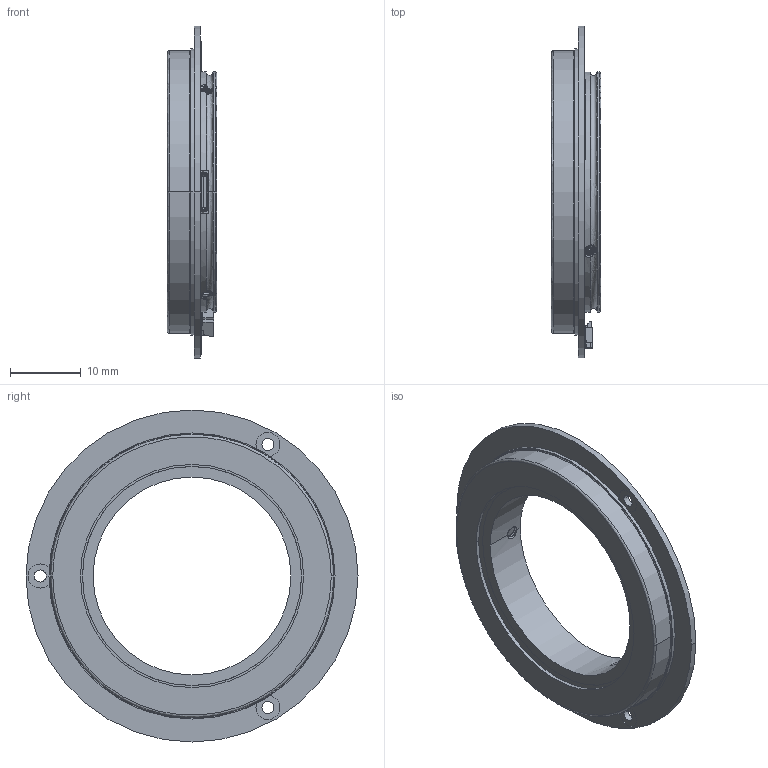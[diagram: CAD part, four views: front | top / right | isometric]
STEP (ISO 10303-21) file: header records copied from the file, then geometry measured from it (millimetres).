
FILE_DESCRIPTION (( 'STEP AP214' ), '1' );
FILE_NAME ('MBS-28-47¸üÐÂ.STEP', '2024-07-16T01:42:51', ( '' ), ( '' ), 'SwSTEP 2.0', 'SolidWorks 2016', '' );
FILE_SCHEMA (( 'AUTOMOTIVE_DESIGN' ));
Length unit declared in the file: millimetre
Products named in the file (1): MBS-28-47載陔
Bounding box: 7 x 47 x 47 mm (x, y, z)
Surface area: 6697.3 mm2 (no closed solid volume)
Topology: 0 solids, 15 shells, 798 faces, 2124 edges, 1395 vertices
Faces by surface type: plane 545, bspline 163, cylinder 78, cone 12
Entity records: 70842 total; most frequent: CARTESIAN_POINT 49274, ORIENTED_EDGE 4190, DIRECTION 3106, EDGE_CURVE 2105, VECTOR 1534, LINE 1534, VERTEX_POINT 1387, EDGE_LOOP 870
